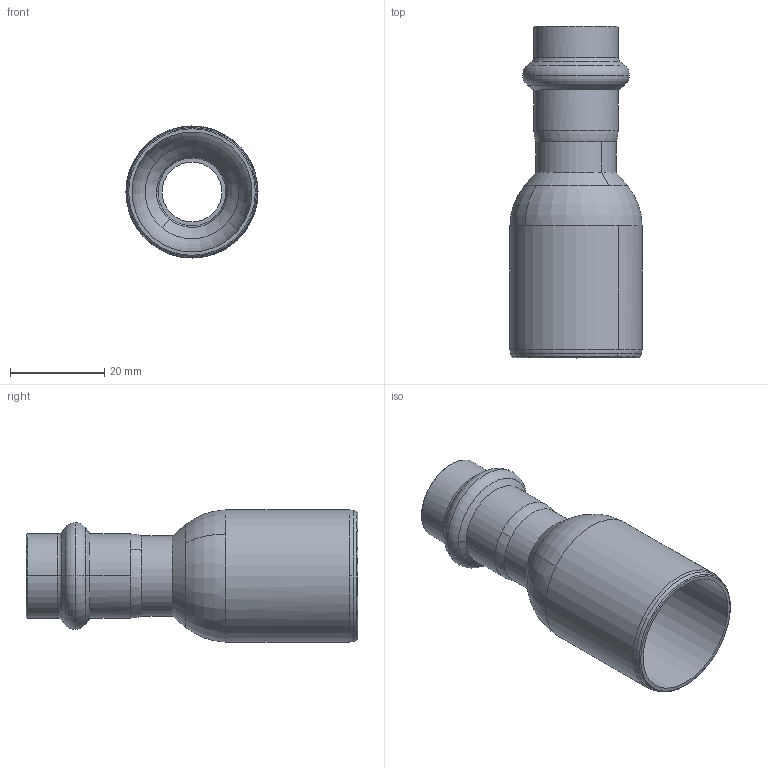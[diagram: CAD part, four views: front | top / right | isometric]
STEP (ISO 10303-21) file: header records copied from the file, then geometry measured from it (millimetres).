
FILE_DESCRIPTION(('CoCreate Modeling STEP Export'),'2;1');
FILE_NAME('8243VW2815.stp','2013-03-05T 9:24:34',(''),(''),'CoCreate Modeling STEP processor for AP214 (Solid Model)','CoCreate Modeling 17.00A 17-Jun-2010 (C) Parametric Technology GmbH','');
FILE_SCHEMA(('AUTOMOTIVE_DESIGN { 1 0 10303 214 1 1 1 1 }'));
Length unit declared in the file: millimetre
Products named in the file (1): 8243VW2815
Bounding box: 28 x 70.33 x 28 mm (x, y, z)
Volume: 6993.2 mm3; surface area: 10146.7 mm2
Topology: 1 solids, 1 shells, 62 faces, 156 edges, 98 vertices
Faces by surface type: torus 22, cylinder 18, cone 18, plane 4
Entity records: 1467 total; most frequent: ORIENTED_EDGE 312, CARTESIAN_POINT 222, DIRECTION 212, EDGE_CURVE 156, VERTEX_POINT 98, AXIS2_PLACEMENT_3D 88, EDGE_LOOP 66, FACE_OUTER_BOUND 62
